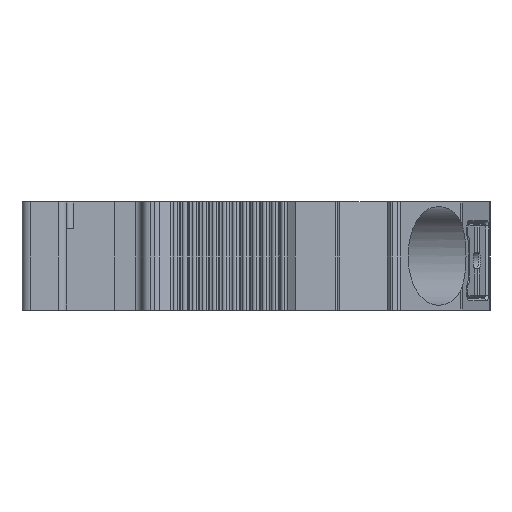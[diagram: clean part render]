
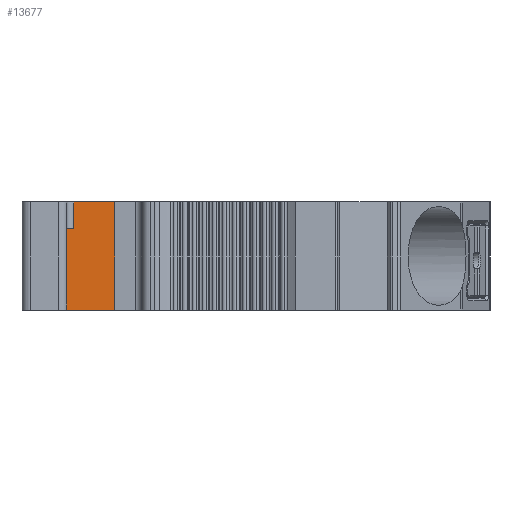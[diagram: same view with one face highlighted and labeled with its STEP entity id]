
A CAD part, left-side view. The second image highlights one B-rep face of the part: STEP entity #13677.
In plain terms, the highlighted planar face has unit normal (-1, 0, 0).
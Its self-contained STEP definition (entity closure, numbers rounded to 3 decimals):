
#1804=DIRECTION('',(0.,-1.,0.));
#1805=VECTOR('',#1804,7.075);
#1806=CARTESIAN_POINT('',(3.75,50.3,-12.15));
#1807=LINE('',#1806,#1805);
#2766=DIRECTION('',(0.,1.,0.));
#2767=VECTOR('',#2766,4.65);
#2768=CARTESIAN_POINT('',(3.75,43.225,0.));
#2769=LINE('',#2768,#2767);
#3746=DIRECTION('',(0.,1.,0.));
#3747=VECTOR('',#3746,1.975);
#3748=CARTESIAN_POINT('',(3.75,50.2,0.));
#3749=LINE('',#3748,#3747);
#3900=DIRECTION('',(0.,0.,1.));
#3901=VECTOR('',#3900,12.15);
#3902=CARTESIAN_POINT('',(3.75,43.225,-12.15));
#3903=LINE('',#3902,#3901);
#3904=DIRECTION('',(0.,1.,0.));
#3905=VECTOR('',#3904,1.875);
#3906=CARTESIAN_POINT('',(3.75,50.3,-9.15));
#3907=LINE('',#3906,#3905);
#3908=DIRECTION('',(0.,0.,-1.));
#3909=VECTOR('',#3908,3.);
#3910=CARTESIAN_POINT('',(3.75,50.2,0.));
#3911=LINE('',#3910,#3909);
#3912=DIRECTION('',(0.,-1.,0.));
#3913=VECTOR('',#3912,2.325);
#3914=CARTESIAN_POINT('',(3.75,50.2,-3.));
#3915=LINE('',#3914,#3913);
#3916=DIRECTION('',(0.,0.,-1.));
#3917=VECTOR('',#3916,3.);
#3918=CARTESIAN_POINT('',(3.75,50.3,-9.15));
#3919=LINE('',#3918,#3917);
#3948=DIRECTION('',(0.,0.,-1.));
#3949=VECTOR('',#3948,9.15);
#3950=CARTESIAN_POINT('',(3.75,52.175,0.));
#3951=LINE('',#3950,#3949);
#4214=DIRECTION('',(0.,0.,-1.));
#4215=VECTOR('',#4214,3.);
#4216=CARTESIAN_POINT('',(3.75,47.875,0.));
#4217=LINE('',#4216,#4215);
#8704=CARTESIAN_POINT('',(3.75,50.3,-12.15));
#8705=VERTEX_POINT('',#8704);
#8706=CARTESIAN_POINT('',(3.75,43.225,-12.15));
#8707=VERTEX_POINT('',#8706);
#9099=CARTESIAN_POINT('',(3.75,43.225,0.));
#9100=VERTEX_POINT('',#9099);
#9101=CARTESIAN_POINT('',(3.75,47.875,0.));
#9102=VERTEX_POINT('',#9101);
#9492=CARTESIAN_POINT('',(3.75,50.2,0.));
#9493=CARTESIAN_POINT('',(3.75,52.175,0.));
#9494=VERTEX_POINT('',#9492);
#9495=VERTEX_POINT('',#9493);
#9534=CARTESIAN_POINT('',(3.75,50.3,-9.15));
#9535=VERTEX_POINT('',#9534);
#9536=CARTESIAN_POINT('',(3.75,52.175,-9.15));
#9537=VERTEX_POINT('',#9536);
#9538=CARTESIAN_POINT('',(3.75,50.2,-3.));
#9539=VERTEX_POINT('',#9538);
#9540=CARTESIAN_POINT('',(3.75,47.875,-3.));
#9541=VERTEX_POINT('',#9540);
#13654=CARTESIAN_POINT('',(3.75,42.972,
-12.483));
#13655=DIRECTION('',(1.,0.,0.));
#13656=DIRECTION('',(0.,1.,0.));
#13657=AXIS2_PLACEMENT_3D('',#13654,#13655,#13656);
#13658=PLANE('',#13657);
#13659=ORIENTED_EDGE('',*,*,#13648,.F.);
#13660=ORIENTED_EDGE('',*,*,#12532,.F.);
#13662=ORIENTED_EDGE('',*,*,#13661,.F.);
#13664=ORIENTED_EDGE('',*,*,#13663,.T.);
#13666=ORIENTED_EDGE('',*,*,#13665,.F.);
#13667=ORIENTED_EDGE('',*,*,#13398,.F.);
#13669=ORIENTED_EDGE('',*,*,#13668,.T.);
#13671=ORIENTED_EDGE('',*,*,#13670,.T.);
#13673=ORIENTED_EDGE('',*,*,#13672,.F.);
#13674=ORIENTED_EDGE('',*,*,#12985,.F.);
#13675=EDGE_LOOP('',(#13659,#13660,#13662,#13664,#13666,#13667,#13669,#13671,
#13673,#13674));
#13676=FACE_OUTER_BOUND('',#13675,.F.);
#13677=ADVANCED_FACE('',(#13676),#13658,.F.);
#12532=EDGE_CURVE('',#8705,#8707,#1807,.T.);
#12985=EDGE_CURVE('',#9100,#9102,#2769,.T.);
#13398=EDGE_CURVE('',#9494,#9495,#3749,.T.);
#13648=EDGE_CURVE('',#8707,#9100,#3903,.T.);
#13661=EDGE_CURVE('',#9535,#8705,#3919,.T.);
#13663=EDGE_CURVE('',#9535,#9537,#3907,.T.);
#13665=EDGE_CURVE('',#9495,#9537,#3951,.T.);
#13668=EDGE_CURVE('',#9494,#9539,#3911,.T.);
#13670=EDGE_CURVE('',#9539,#9541,#3915,.T.);
#13672=EDGE_CURVE('',#9102,#9541,#4217,.T.);
